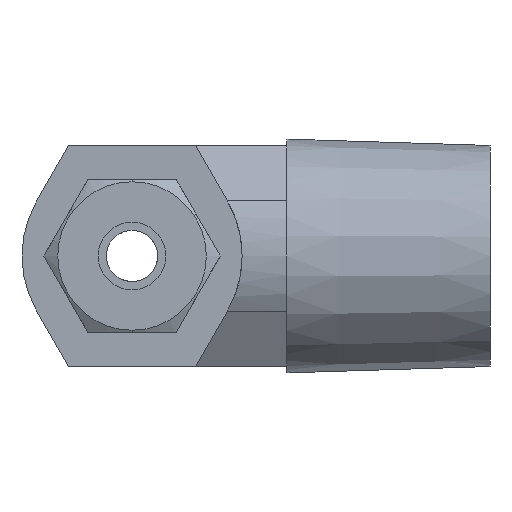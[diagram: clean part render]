
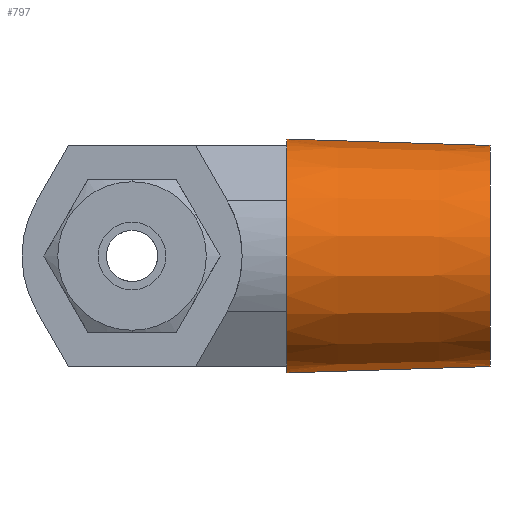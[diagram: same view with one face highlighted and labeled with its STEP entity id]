
A CAD part, left-side view. The second image highlights one B-rep face of the part: STEP entity #797.
In plain terms, the highlighted conical face has half-angle 1.8 degrees and reference radius 10.6 mm.
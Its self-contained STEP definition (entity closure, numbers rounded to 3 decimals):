
#775 = EDGE_CURVE ( 'NONE', #782, #777, #2432, .T. ) ;
#776 = ORIENTED_EDGE ( 'NONE', *, *, #857, .T. ) ;
#777 = VERTEX_POINT ( 'NONE', #2423 ) ;
#778 = EDGE_CURVE ( 'NONE', #787, #779, #2422, .T. ) ;
#779 = VERTEX_POINT ( 'NONE', #2418 ) ;
#780 = ORIENTED_EDGE ( 'NONE', *, *, #781, .T. ) ;
#781 = EDGE_CURVE ( 'NONE', #779, #782, #2417, .T. ) ;
#782 = VERTEX_POINT ( 'NONE', #2412 ) ;
#783 = ORIENTED_EDGE ( 'NONE', *, *, #778, .T. ) ;
#784 = ORIENTED_EDGE ( 'NONE', *, *, #786, .F. ) ;
#785 = VERTEX_POINT ( 'NONE', #2411 ) ;
#786 = EDGE_CURVE ( 'NONE', #787, #785, #2410, .T. ) ;
#787 = VERTEX_POINT ( 'NONE', #2405 ) ;
#797 = ADVANCED_FACE ( 'NONE', ( #2450 ), #2448, .T. ) ;
#814 = EDGE_LOOP ( 'NONE', ( #784, #783, #780, #859, #776, #852, #855, #850 ) ) ;
#849 = VERTEX_POINT ( 'NONE', #2591 ) ;
#850 = ORIENTED_EDGE ( 'NONE', *, *, #851, .F. ) ;
#851 = EDGE_CURVE ( 'NONE', #785, #856, #2590, .T. ) ;
#852 = ORIENTED_EDGE ( 'NONE', *, *, #853, .T. ) ;
#853 = EDGE_CURVE ( 'NONE', #858, #849, #2586, .T. ) ;
#854 = EDGE_CURVE ( 'NONE', #849, #856, #2581, .T. ) ;
#855 = ORIENTED_EDGE ( 'NONE', *, *, #854, .T. ) ;
#856 = VERTEX_POINT ( 'NONE', #2576 ) ;
#857 = EDGE_CURVE ( 'NONE', #777, #858, #2575, .T. ) ;
#858 = VERTEX_POINT ( 'NONE', #2570 ) ;
#859 = ORIENTED_EDGE ( 'NONE', *, *, #775, .T. ) ;
#2405 = CARTESIAN_POINT ( 'NONE',  ( 0., -33.5, 10.345 ) ) ;
#2406 = DIRECTION ( 'NONE',  ( 0., 0., -1. ) ) ;
#2407 = DIRECTION ( 'NONE',  ( 0., -1., 0. ) ) ;
#2408 = CARTESIAN_POINT ( 'NONE',  ( 0., -33.5, 0. ) ) ;
#2409 = AXIS2_PLACEMENT_3D ( 'NONE', #2408, #2407, #2406 ) ;
#2410 = CIRCLE ( 'NONE', #2409, 10.345 ) ;
#2411 = CARTESIAN_POINT ( 'NONE',  ( 0., -33.5, -10.345 ) ) ;
#2412 = CARTESIAN_POINT ( 'NONE',  ( -3.692, -14.5, 10.3 ) ) ;
#2413 = DIRECTION ( 'NONE',  ( 0., 0., -1. ) ) ;
#2414 = DIRECTION ( 'NONE',  ( 0., -1., 0. ) ) ;
#2415 = CARTESIAN_POINT ( 'NONE',  ( 0., -14.5, 0. ) ) ;
#2416 = AXIS2_PLACEMENT_3D ( 'NONE', #2415, #2414, #2413 ) ;
#2417 = CIRCLE ( 'NONE', #2416, 10.942 ) ;
#2418 = CARTESIAN_POINT ( 'NONE',  ( 0., -14.5, 10.942 ) ) ;
#2419 = DIRECTION ( 'NONE',  ( 0., 1., 0.031 ) ) ;
#2420 = VECTOR ( 'NONE', #2419, 1000. ) ;
#2421 = CARTESIAN_POINT ( 'NONE',  ( 0., -25.37, 10.6 ) ) ;
#2422 = LINE ( 'NONE', #2421, #2420 ) ;
#2423 = CARTESIAN_POINT ( 'NONE',  ( -7.074, -14.5, 8.347 ) ) ;
#2424 = DIRECTION ( 'NONE',  ( 0., 0., -1. ) ) ;
#2425 = DIRECTION ( 'NONE',  ( 0., -1., 0. ) ) ;
#2426 = CARTESIAN_POINT ( 'NONE',  ( 0., -14.5, 0. ) ) ;
#2427 = AXIS2_PLACEMENT_3D ( 'NONE', #2426, #2425, #2424 ) ;
#2432 = CIRCLE ( 'NONE', #2427, 10.942 ) ;
#2445 = DIRECTION ( 'NONE',  ( 0., 0., -1. ) ) ;
#2446 = DIRECTION ( 'NONE',  ( 0., 1., 0. ) ) ;
#2447 = AXIS2_PLACEMENT_3D ( 'NONE', #2449, #2446, #2445 ) ;
#2448 = CONICAL_SURFACE ( 'NONE', #2447, 10.6, 0.031 ) ;
#2449 = CARTESIAN_POINT ( 'NONE',  ( 0., -25.37, 0. ) ) ;
#2450 = FACE_OUTER_BOUND ( 'NONE', #814, .T. ) ;
#2570 = CARTESIAN_POINT ( 'NONE',  ( -7.074, -14.5, -8.347 ) ) ;
#2571 = DIRECTION ( 'NONE',  ( 0., 0., -1. ) ) ;
#2572 = DIRECTION ( 'NONE',  ( 0., -1., 0. ) ) ;
#2573 = CARTESIAN_POINT ( 'NONE',  ( 0., -14.5, 0. ) ) ;
#2574 = AXIS2_PLACEMENT_3D ( 'NONE', #2573, #2572, #2571 ) ;
#2575 = CIRCLE ( 'NONE', #2574, 10.942 ) ;
#2576 = CARTESIAN_POINT ( 'NONE',  ( 0., -14.5, -10.942 ) ) ;
#2577 = DIRECTION ( 'NONE',  ( 0., 0., -1. ) ) ;
#2578 = DIRECTION ( 'NONE',  ( 0., -1., 0. ) ) ;
#2579 = CARTESIAN_POINT ( 'NONE',  ( 0., -14.5, 0. ) ) ;
#2580 = AXIS2_PLACEMENT_3D ( 'NONE', #2579, #2578, #2577 ) ;
#2581 = CIRCLE ( 'NONE', #2580, 10.942 ) ;
#2582 = DIRECTION ( 'NONE',  ( 0., 0., -1. ) ) ;
#2583 = DIRECTION ( 'NONE',  ( 0., -1., 0. ) ) ;
#2584 = CARTESIAN_POINT ( 'NONE',  ( 0., -14.5, 0. ) ) ;
#2585 = AXIS2_PLACEMENT_3D ( 'NONE', #2584, #2583, #2582 ) ;
#2586 = CIRCLE ( 'NONE', #2585, 10.942 ) ;
#2587 = DIRECTION ( 'NONE',  ( 0., 1., -0.031 ) ) ;
#2588 = VECTOR ( 'NONE', #2587, 1000. ) ;
#2589 = CARTESIAN_POINT ( 'NONE',  ( 0., -25.37, -10.6 ) ) ;
#2590 = LINE ( 'NONE', #2589, #2588 ) ;
#2591 = CARTESIAN_POINT ( 'NONE',  ( -3.692, -14.5, -10.3 ) ) ;
